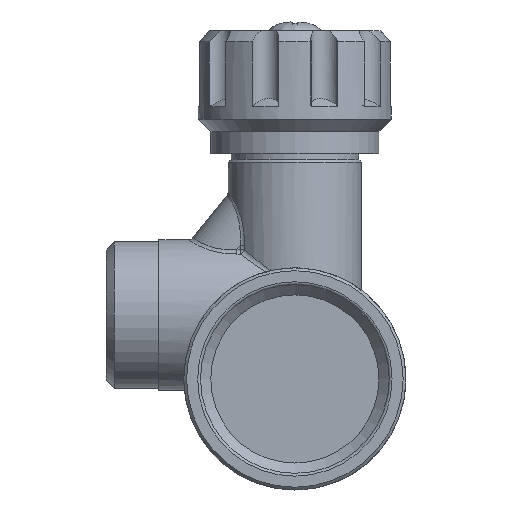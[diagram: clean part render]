
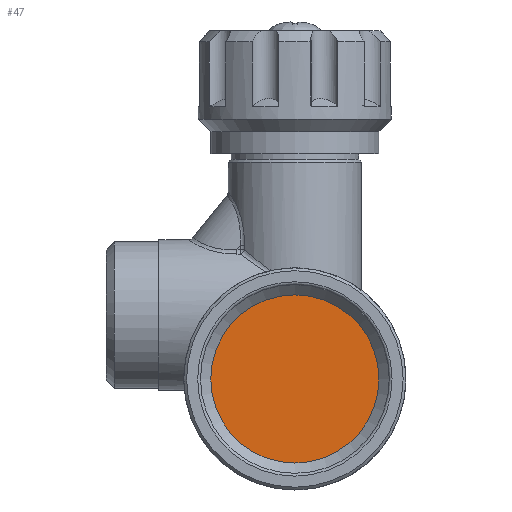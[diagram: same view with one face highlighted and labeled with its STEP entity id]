
A CAD part, front view. The second image highlights one B-rep face of the part: STEP entity #47.
In plain terms, the highlighted planar face has unit normal (0, -1, 0).
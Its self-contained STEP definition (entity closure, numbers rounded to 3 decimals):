
#47=ADVANCED_FACE('',(#1173),#1175,.T.);
#1173=FACE_BOUND('',#1174,.T.);
#1174=EDGE_LOOP('',(#14629));
#1175=PLANE('',#1176);
#1176=AXIS2_PLACEMENT_3D('',#1177,#1178,#1179);
#1177=CARTESIAN_POINT('',(0.,15.,0.));
#1178=DIRECTION('',(0.,-1.,0.));
#1179=DIRECTION('',(1.,0.,0.));
#14629=ORIENTED_EDGE('',*,*,#21606,.T.);
#21606=EDGE_CURVE('',#24590,#24590,#24591,.T.);
#24590=VERTEX_POINT('',#29570);
#24591=CIRCLE('',#29571,15.146);
#29570=CARTESIAN_POINT('',(15.146,15.,0.));
#29571=AXIS2_PLACEMENT_3D('',#29572,#29573,#29574);
#29572=CARTESIAN_POINT('',(0.,15.,0.));
#29573=DIRECTION('',(0.,-1.,0.));
#29574=DIRECTION('',(1.,0.,0.));
